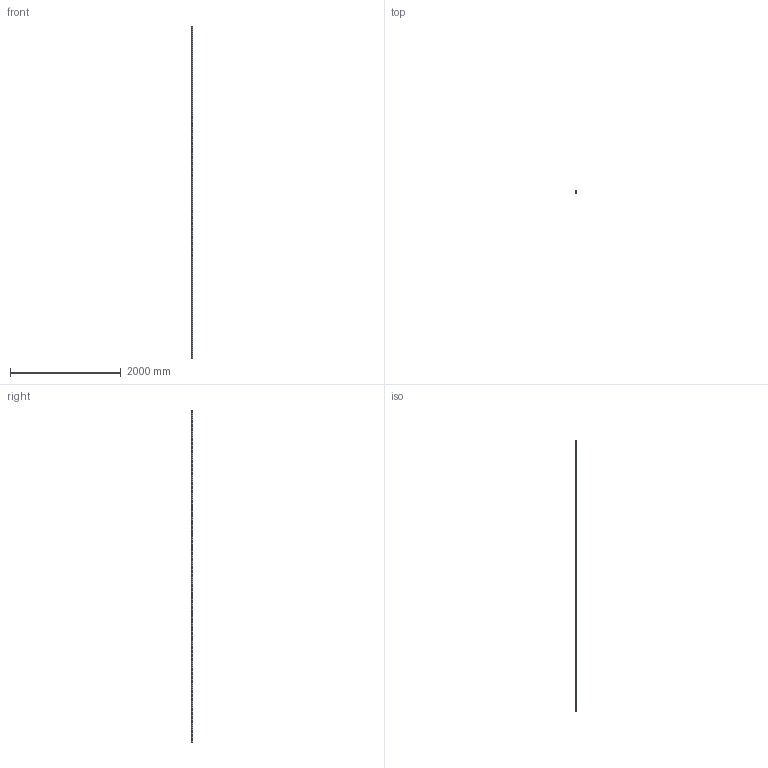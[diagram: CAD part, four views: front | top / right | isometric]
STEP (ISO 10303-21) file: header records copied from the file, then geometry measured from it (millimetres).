
FILE_DESCRIPTION (( 'STEP AP214' ), '1' );
FILE_NAME ('Profilschiene PSG33-6000 Test.STEP', '2020-12-11T08:48:59', ( '' ), ( '' ), 'SwSTEP 2.0', 'SolidWorks 2019', '' );
FILE_SCHEMA (( 'AUTOMOTIVE_DESIGN' ));
Length unit declared in the file: millimetre
Products named in the file (1): Profilschiene PSG33-6000 Test
Bounding box: 18.52 x 33.48 x 6000 mm (x, y, z)
Volume: 903209.8 mm3; surface area: 757909.7 mm2
Topology: 1 solids, 1 shells, 531 faces, 2442 edges, 2122 vertices
Faces by surface type: plane 369, cylinder 162
Entity records: 37880 total; most frequent: CARTESIAN_POINT 15926, ORIENTED_EDGE 4884, DIRECTION 3184, EDGE_CURVE 2442, VERTEX_POINT 2122, VECTOR 1472, LINE 1472, EDGE_LOOP 890
